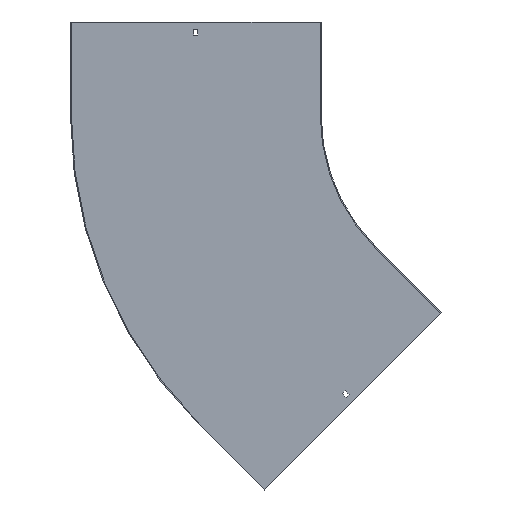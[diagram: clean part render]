
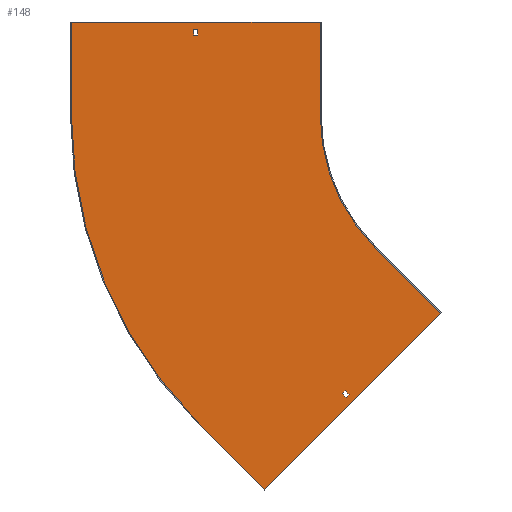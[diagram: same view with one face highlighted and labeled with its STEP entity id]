
A CAD part, front view. The second image highlights one B-rep face of the part: STEP entity #148.
In plain terms, the highlighted planar face has unit normal (0, -1, 0).
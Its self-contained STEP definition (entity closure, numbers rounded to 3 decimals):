
#7 = LINE ( 'NONE', #659, #65 ) ;
#15 = DIRECTION ( 'NONE',  ( -0.707, 0., 0.707 ) ) ;
#21 = DIRECTION ( 'NONE',  ( 0., -1., 0. ) ) ;
#23 = ORIENTED_EDGE ( 'NONE', *, *, #261, .F. ) ;
#28 = VECTOR ( 'NONE', #98, 1000. ) ;
#32 = CARTESIAN_POINT ( 'NONE',  ( -300., -1.5, 0. ) ) ;
#42 = EDGE_CURVE ( 'NONE', #732, #754, #515, .T. ) ;
#50 = DIRECTION ( 'NONE',  ( 0., 0., 1. ) ) ;
#51 = EDGE_CURVE ( 'NONE', #811, #822, #668, .T. ) ;
#60 = DIRECTION ( 'NONE',  ( 0.707, 0., -0.707 ) ) ;
#65 = VECTOR ( 'NONE', #799, 1000. ) ;
#71 = VERTEX_POINT ( 'NONE', #465 ) ;
#76 = CARTESIAN_POINT ( 'NONE',  ( 91.217, -1.5, -91.217 ) ) ;
#81 = DIRECTION ( 'NONE',  ( 1., 0., 0. ) ) ;
#84 = CARTESIAN_POINT ( 'NONE',  ( 0., -1.5, 0. ) ) ;
#91 = VERTEX_POINT ( 'NONE', #449 ) ;
#98 = DIRECTION ( 'NONE',  ( 0., 0., -1. ) ) ;
#99 = ORIENTED_EDGE ( 'NONE', *, *, #299, .F. ) ;
#104 = ORIENTED_EDGE ( 'NONE', *, *, #265, .F. ) ;
#110 = CARTESIAN_POINT ( 'NONE',  ( -105.005, -1.5, -317.137 ) ) ;
#115 = CARTESIAN_POINT ( 'NONE',  ( -388.909, -1.5, -601.041 ) ) ;
#122 = VECTOR ( 'NONE', #139, 1000. ) ;
#123 = LINE ( 'NONE', #452, #831 ) ;
#131 = EDGE_CURVE ( 'NONE', #754, #588, #335, .T. ) ;
#134 = CARTESIAN_POINT ( 'NONE',  ( -496.75, -1.5, 129. ) ) ;
#135 = DIRECTION ( 'NONE',  ( 0.707, 0., -0.707 ) ) ;
#139 = DIRECTION ( 'NONE',  ( 0.707, 0., 0.707 ) ) ;
#140 = FACE_BOUND ( 'NONE', #800, .T. ) ;
#142 = DIRECTION ( 'NONE',  ( -0.707, 0., 0.707 ) ) ;
#145 = DIRECTION ( 'NONE',  ( 0., -1., 0. ) ) ;
#147 = CARTESIAN_POINT ( 'NONE',  ( -388.909, -1.5, -601.041 ) ) ;
#148 = ADVANCED_FACE ( 'NONE', ( #140, #209, #815 ), #733, .T. ) ;
#150 = ORIENTED_EDGE ( 'NONE', *, *, #394, .F. ) ;
#168 = CARTESIAN_POINT ( 'NONE',  ( -258.271, -1.5, -453.432 ) ) ;
#171 = LINE ( 'NONE', #110, #786 ) ;
#181 = CARTESIAN_POINT ( 'NONE',  ( -700., -1.5, 0. ) ) ;
#192 = AXIS2_PLACEMENT_3D ( 'NONE', #285, #145, #548 ) ;
#199 = LINE ( 'NONE', #479, #711 ) ;
#201 = ORIENTED_EDGE ( 'NONE', *, *, #838, .F. ) ;
#203 = CARTESIAN_POINT ( 'NONE',  ( -351.255, -1.5, -351.255 ) ) ;
#208 = LINE ( 'NONE', #530, #122 ) ;
#209 = FACE_OUTER_BOUND ( 'NONE', #841, .T. ) ;
#213 = VERTEX_POINT ( 'NONE', #589 ) ;
#216 = ORIENTED_EDGE ( 'NONE', *, *, #603, .T. ) ;
#228 = VERTEX_POINT ( 'NONE', #134 ) ;
#236 = DIRECTION ( 'NONE',  ( 0., 1., 0. ) ) ;
#240 = CARTESIAN_POINT ( 'NONE',  ( -503.25, -1.5, 138. ) ) ;
#252 = ORIENTED_EDGE ( 'NONE', *, *, #51, .F. ) ;
#255 = EDGE_CURVE ( 'NONE', #748, #91, #7, .T. ) ;
#261 = EDGE_CURVE ( 'NONE', #513, #345, #327, .T. ) ;
#263 = CARTESIAN_POINT ( 'NONE',  ( 0., -1.5, 129. ) ) ;
#265 = EDGE_CURVE ( 'NONE', #91, #71, #199, .T. ) ;
#285 = CARTESIAN_POINT ( 'NONE',  ( 0., -1.5, 0. ) ) ;
#290 = VERTEX_POINT ( 'NONE', #663 ) ;
#299 = EDGE_CURVE ( 'NONE', #311, #811, #391, .T. ) ;
#301 = CARTESIAN_POINT ( 'NONE',  ( -503.25, -1.5, 0. ) ) ;
#311 = VERTEX_POINT ( 'NONE', #826 ) ;
#327 = LINE ( 'NONE', #147, #664 ) ;
#331 = DIRECTION ( 'NONE',  ( -0.707, 0., -0.707 ) ) ;
#335 = LINE ( 'NONE', #597, #591 ) ;
#345 = VERTEX_POINT ( 'NONE', #819 ) ;
#367 = CARTESIAN_POINT ( 'NONE',  ( -503.25, -1.5, 129. ) ) ;
#368 = CARTESIAN_POINT ( 'NONE',  ( 0., -1.5, 0. ) ) ;
#384 = DIRECTION ( 'NONE',  ( -1., 0., 0. ) ) ;
#391 = LINE ( 'NONE', #76, #578 ) ;
#392 = VERTEX_POINT ( 'NONE', #621 ) ;
#394 = EDGE_CURVE ( 'NONE', #768, #392, #833, .T. ) ;
#395 = DIRECTION ( 'NONE',  ( 1., 0., 0. ) ) ;
#419 = CARTESIAN_POINT ( 'NONE',  ( -496.75, -1.5, 0. ) ) ;
#430 = LINE ( 'NONE', #558, #750 ) ;
#431 = ORIENTED_EDGE ( 'NONE', *, *, #628, .F. ) ;
#435 = CIRCLE ( 'NONE', #480, 700. ) ;
#438 = EDGE_CURVE ( 'NONE', #213, #513, #171, .T. ) ;
#449 = CARTESIAN_POINT ( 'NONE',  ( -700., -1.5, 150. ) ) ;
#452 = CARTESIAN_POINT ( 'NONE',  ( -212.132, -1.5, -212.132 ) ) ;
#465 = CARTESIAN_POINT ( 'NONE',  ( -300., -1.5, 150. ) ) ;
#469 = LINE ( 'NONE', #203, #708 ) ;
#473 = CARTESIAN_POINT ( 'NONE',  ( -496.75, -1.5, 138. ) ) ;
#476 = AXIS2_PLACEMENT_3D ( 'NONE', #84, #21, #478 ) ;
#478 = DIRECTION ( 'NONE',  ( 0., 0., -1. ) ) ;
#479 = CARTESIAN_POINT ( 'NONE',  ( -701.5, -1.5, 150. ) ) ;
#480 = AXIS2_PLACEMENT_3D ( 'NONE', #368, #236, #505 ) ;
#492 = LINE ( 'NONE', #419, #28 ) ;
#505 = DIRECTION ( 'NONE',  ( 0., 0., -1. ) ) ;
#507 = ORIENTED_EDGE ( 'NONE', *, *, #438, .F. ) ;
#513 = VERTEX_POINT ( 'NONE', #115 ) ;
#515 = LINE ( 'NONE', #301, #774 ) ;
#516 = VECTOR ( 'NONE', #384, 1000. ) ;
#522 = CARTESIAN_POINT ( 'NONE',  ( -355.851, -1.5, -355.851 ) ) ;
#530 = CARTESIAN_POINT ( 'NONE',  ( 97.581, -1.5, -97.581 ) ) ;
#544 = VECTOR ( 'NONE', #60, 1000. ) ;
#548 = DIRECTION ( 'NONE',  ( 0., 0., -1. ) ) ;
#558 = CARTESIAN_POINT ( 'NONE',  ( -300., -1.5, 150. ) ) ;
#559 = EDGE_CURVE ( 'NONE', #822, #290, #208, .T. ) ;
#575 = ORIENTED_EDGE ( 'NONE', *, *, #131, .T. ) ;
#576 = ORIENTED_EDGE ( 'NONE', *, *, #778, .T. ) ;
#578 = VECTOR ( 'NONE', #331, 1000. ) ;
#587 = EDGE_CURVE ( 'NONE', #290, #311, #469, .T. ) ;
#588 = VERTEX_POINT ( 'NONE', #473 ) ;
#589 = CARTESIAN_POINT ( 'NONE',  ( -106.066, -1.5, -318.198 ) ) ;
#591 = VECTOR ( 'NONE', #81, 1000. ) ;
#597 = CARTESIAN_POINT ( 'NONE',  ( 0., -1.5, 138. ) ) ;
#603 = EDGE_CURVE ( 'NONE', #228, #732, #861, .T. ) ;
#621 = CARTESIAN_POINT ( 'NONE',  ( -212.132, -1.5, -212.132 ) ) ;
#628 = EDGE_CURVE ( 'NONE', #392, #213, #123, .T. ) ;
#637 = ORIENTED_EDGE ( 'NONE', *, *, #810, .F. ) ;
#659 = CARTESIAN_POINT ( 'NONE',  ( -700., -1.5, 0. ) ) ;
#663 = CARTESIAN_POINT ( 'NONE',  ( -253.675, -1.5, -448.836 ) ) ;
#664 = VECTOR ( 'NONE', #142, 1000. ) ;
#668 = LINE ( 'NONE', #522, #544 ) ;
#669 = ORIENTED_EDGE ( 'NONE', *, *, #255, .F. ) ;
#678 = CARTESIAN_POINT ( 'NONE',  ( -264.635, -1.5, -447.068 ) ) ;
#690 = EDGE_LOOP ( 'NONE', ( #575, #576, #216, #702 ) ) ;
#702 = ORIENTED_EDGE ( 'NONE', *, *, #42, .T. ) ;
#708 = VECTOR ( 'NONE', #15, 1000. ) ;
#711 = VECTOR ( 'NONE', #395, 1000. ) ;
#714 = ORIENTED_EDGE ( 'NONE', *, *, #559, .F. ) ;
#732 = VERTEX_POINT ( 'NONE', #367 ) ;
#733 = PLANE ( 'NONE',  #476 ) ;
#748 = VERTEX_POINT ( 'NONE', #181 ) ;
#750 = VECTOR ( 'NONE', #847, 1000. ) ;
#754 = VERTEX_POINT ( 'NONE', #240 ) ;
#762 = DIRECTION ( 'NONE',  ( -0.707, 0., -0.707 ) ) ;
#763 = ORIENTED_EDGE ( 'NONE', *, *, #587, .F. ) ;
#768 = VERTEX_POINT ( 'NONE', #32 ) ;
#774 = VECTOR ( 'NONE', #50, 1000. ) ;
#778 = EDGE_CURVE ( 'NONE', #588, #228, #492, .T. ) ;
#786 = VECTOR ( 'NONE', #762, 1000. ) ;
#799 = DIRECTION ( 'NONE',  ( 0., 0., 1. ) ) ;
#800 = EDGE_LOOP ( 'NONE', ( #763, #714, #252, #99 ) ) ;
#810 = EDGE_CURVE ( 'NONE', #71, #768, #430, .T. ) ;
#811 = VERTEX_POINT ( 'NONE', #678 ) ;
#815 = FACE_BOUND ( 'NONE', #690, .T. ) ;
#819 = CARTESIAN_POINT ( 'NONE',  ( -494.975, -1.5, -494.975 ) ) ;
#822 = VERTEX_POINT ( 'NONE', #168 ) ;
#826 = CARTESIAN_POINT ( 'NONE',  ( -260.039, -1.5, -442.472 ) ) ;
#831 = VECTOR ( 'NONE', #135, 1000. ) ;
#833 = CIRCLE ( 'NONE', #192, 300. ) ;
#838 = EDGE_CURVE ( 'NONE', #345, #748, #435, .T. ) ;
#841 = EDGE_LOOP ( 'NONE', ( #104, #669, #201, #23, #507, #431, #150, #637 ) ) ;
#847 = DIRECTION ( 'NONE',  ( 0., 0., -1. ) ) ;
#861 = LINE ( 'NONE', #263, #516 ) ;
